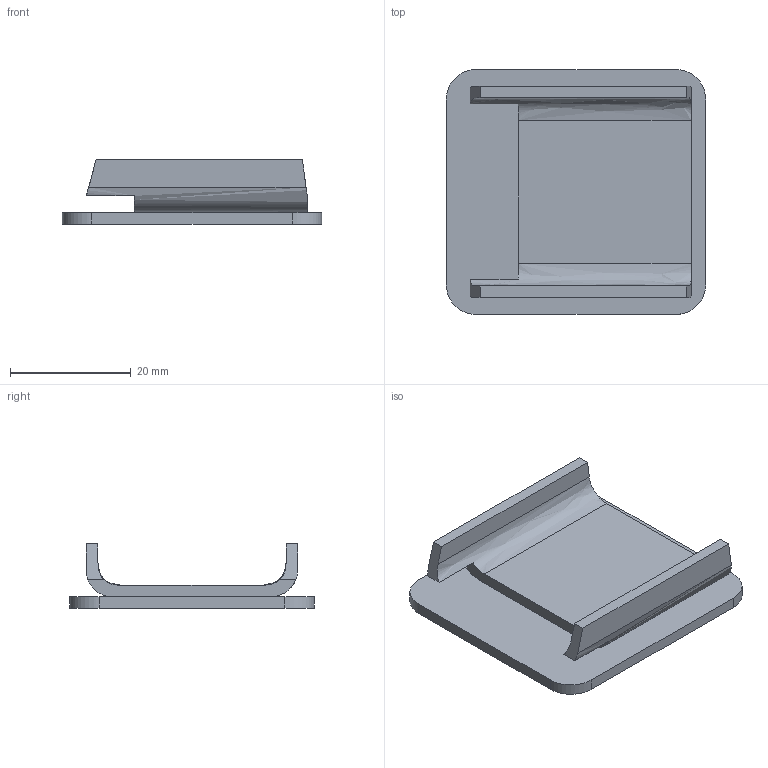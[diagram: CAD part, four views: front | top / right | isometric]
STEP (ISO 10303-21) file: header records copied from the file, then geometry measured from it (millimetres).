
FILE_DESCRIPTION(('TurboCAD Mac Pro'),'Build 980');
FILE_NAME('P1280W.stp',' ',(''),(''),'ACIS Interop','IMSI','TurboCAD Mac Pro BY IMSI, INCORPORATED');
FILE_SCHEMA(('automotive_design'));
Length unit declared in the file: inch
Products named in the file (1): 1
Bounding box: 42.87 x 40.48 x 10.63 mm (x, y, z)
Volume: 5974.2 mm3; surface area: 5320.5 mm2
Topology: 1 solids, 1 shells, 29 faces, 78 edges, 52 vertices
Faces by surface type: plane 21, bspline 8
Entity records: 1292 total; most frequent: CARTESIAN_POINT 384, ORIENTED_EDGE 156, DIRECTION 94, EDGE_CURVE 78, VERTEX_POINT 52, LINE 50, VECTOR 50, STYLED_ITEM 30
